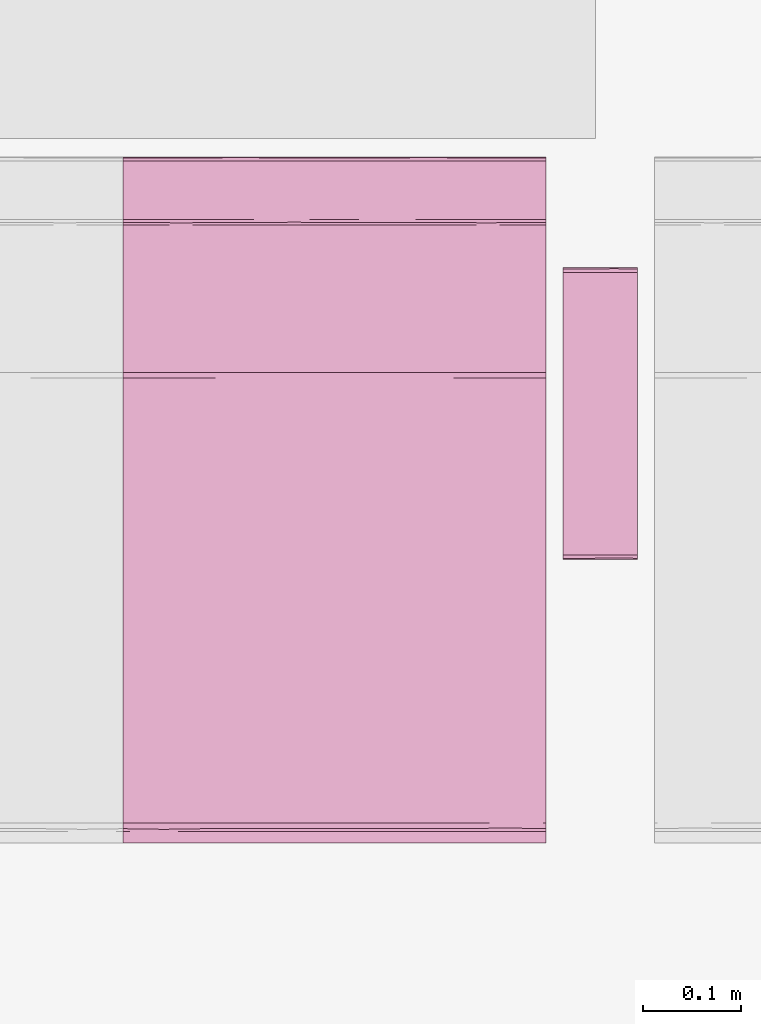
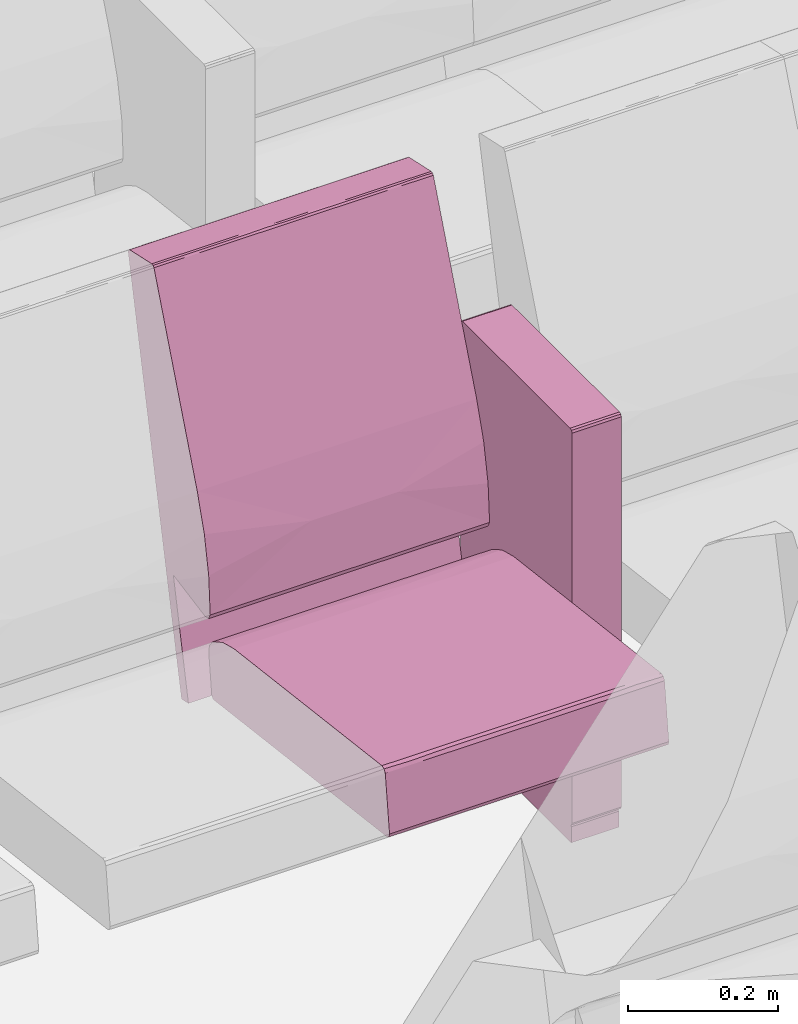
# One storey, part 129 of 155: 1 furnishing.
"""IFC2X3 building model written with IfcOpenShell, lengths in metres."""

from ifc_helpers import new_model, entity, si_unit, converted_unit, derived_unit, direction, frame, origin, place, context, subcontext, project, spatial, faceted_brep, source, transform, mapped, material, material_list, type_object, type_shapes, element, save


model = new_model("IFC2X3")

# Units and contexts
model_context = context("Model", 3, precision=1e-05, world=origin(), true_north=direction((6.12303176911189e-17, 1.0)))
body_context = subcontext(model_context, "Body", "Model", "MODEL_VIEW")
ifc_project = project(units=[si_unit("LENGTHUNIT", "METRE"), si_unit("AREAUNIT", "SQUARE_METRE"), si_unit("VOLUMEUNIT", "CUBIC_METRE"), converted_unit("PLANEANGLEUNIT", "DEGREE", entity("IfcRatioMeasure", 0.0174532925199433), si_unit("PLANEANGLEUNIT", "RADIAN"), dimensions=[0, 0, 0, 0, 0, 0, 0]), si_unit("MASSUNIT", "GRAM", prefix="KILO"), derived_unit("MASSDENSITYUNIT", [(si_unit("MASSUNIT", "GRAM", prefix="KILO"), 1), (si_unit("LENGTHUNIT", "METRE"), -3)]), si_unit("TIMEUNIT", "SECOND"), si_unit("FREQUENCYUNIT", "HERTZ"), si_unit("THERMODYNAMICTEMPERATUREUNIT", "DEGREE_CELSIUS"), derived_unit("THERMALTRANSMITTANCEUNIT", [(si_unit("MASSUNIT", "GRAM", prefix="KILO"), 1), (si_unit("THERMODYNAMICTEMPERATUREUNIT", "KELVIN"), -1), (si_unit("TIMEUNIT", "SECOND"), -3)]), derived_unit("VOLUMETRICFLOWRATEUNIT", [(si_unit("LENGTHUNIT", "METRE"), 3), (si_unit("TIMEUNIT", "SECOND"), -1)]), si_unit("ELECTRICCURRENTUNIT", "AMPERE"), si_unit("ELECTRICVOLTAGEUNIT", "VOLT"), si_unit("POWERUNIT", "WATT"), si_unit("FORCEUNIT", "NEWTON", prefix="KILO"), si_unit("ILLUMINANCEUNIT", "LUX"), si_unit("LUMINOUSFLUXUNIT", "LUMEN"), si_unit("LUMINOUSINTENSITYUNIT", "CANDELA"), derived_unit("USERDEFINED", [(si_unit("MASSUNIT", "GRAM", prefix="KILO"), -1), (si_unit("LENGTHUNIT", "METRE"), -2), (si_unit("TIMEUNIT", "SECOND"), 3), (si_unit("LUMINOUSFLUXUNIT", "LUMEN"), 1)]), derived_unit("LINEARVELOCITYUNIT", [(si_unit("LENGTHUNIT", "METRE"), 1), (si_unit("TIMEUNIT", "SECOND"), -1)]), si_unit("PRESSUREUNIT", "PASCAL"), derived_unit("USERDEFINED", [(si_unit("LENGTHUNIT", "METRE"), -2), (si_unit("MASSUNIT", "GRAM", prefix="KILO"), 1), (si_unit("TIMEUNIT", "SECOND"), -2)])], contexts=[model_context])

# Site, building, storey, space
site_placement = place(None, frame((26.9889013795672, -17.5624287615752, 0.0)))
site = spatial("IfcSite", under=ifc_project, at=site_placement, Name="Default", CompositionType="ELEMENT")
building_placement = place(site_placement, origin())
building = spatial("IfcBuilding", under=site, at=building_placement, Name="C. C. L. Monsenhor Antônio Sampaio", CompositionType="ELEMENT")
storey_placement = place(building_placement, frame((0.0, 0.0, 1.19999999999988)))
storey = spatial("IfcBuildingStorey", under=building, at=storey_placement, Name="Nível 1.2", CompositionType="ELEMENT", Elevation=1.19999999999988)
space_placement = place(storey_placement, origin())
space = spatial("IfcSpace", under=storey, at=space_placement, Name="94", CompositionType="ELEMENT", InteriorOrExteriorSpace="INTERNAL")

# Furnishing
ifc_material_1 = material(Name="V9 - V9 - Ecopelle_672_658")
ifc_material_2 = material(Name="V9 - V9 - RAL_9006_Grigio")
ifc_material_list_1 = material_list([ifc_material_1, ifc_material_2])
ifc_material_list_2 = material_list([ifc_material_1, ifc_material_2])
furniture_type = type_object("IfcFurnitureType", Name="Cadeira auditório", material=ifc_material_list_2)
shared_shape = source(origin(), body_context, "Body", "Brep", [
    faceted_brep([(0.405536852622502, -0.1075, 0.339809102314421), (0.410560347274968, -0.131924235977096, 0.34246450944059), (0.405536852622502, -0.156348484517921, 0.339809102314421), (0.41079981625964, -0.0179166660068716, 0.342749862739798), (0.410597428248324, -0.084060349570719, 0.342506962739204), (0.405536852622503, -0.0537499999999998, 0.339809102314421), (0.410248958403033, -0.173608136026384, 0.342130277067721), (0.405536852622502, -0.215, 0.339809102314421), (0.412515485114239, -0.143333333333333, 0.348529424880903), (0.412515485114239, -0.185674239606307, 0.348529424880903), (0.405536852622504, 0.1075, 0.33980910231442), (0.405536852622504, 0.156348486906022, 0.33980910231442), (0.410560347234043, 0.131924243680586, 0.342464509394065), (0.405536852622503, 0.0, 0.33980910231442), (0.411170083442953, 0.0341365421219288, 0.343251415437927), (0.41251548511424, 0.0, 0.348529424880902), (0.412515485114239, -0.0358333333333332, 0.348529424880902), (0.412515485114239, -0.0716666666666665, 0.348529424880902), (0.41251548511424, 0.143333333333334, 0.348529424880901), (0.41059742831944, 0.0840603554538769, 0.342506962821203), (0.405536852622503, 0.0537500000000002, 0.33980910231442), (0.410248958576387, 0.173608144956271, 0.342130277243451), (0.410799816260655, 0.215, 0.342749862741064), (0.412515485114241, 0.185674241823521, 0.348529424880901), (0.412515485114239, -0.215, 0.348529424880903), (0.410799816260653, -0.215, 0.342749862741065), (0.412515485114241, 0.215, 0.348529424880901), (0.41251548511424, 0.0716666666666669, 0.348529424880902), (0.405536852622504, 0.215, 0.33980910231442), (-0.0557900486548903, -0.215, 0.28268145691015), (-0.0557900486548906, -0.1881249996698, 0.282681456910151), (-0.0557900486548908, -0.161250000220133, 0.282681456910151), (-0.055790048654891, -0.134374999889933, 0.282681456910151), (-0.0557900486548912, -0.107499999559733, 0.282681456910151), (-0.0557900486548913, -0.0806250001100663, 0.282681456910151), (-0.0557900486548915, -0.0537499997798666, 0.282681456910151), (-0.0557900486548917, -0.0268749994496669, 0.282681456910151), (-0.0557900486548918, 0.0, 0.28268145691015), (-0.0557900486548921, 0.0268750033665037, 0.282681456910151), (-0.0557900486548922, 0.0537499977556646, 0.282681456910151), (-0.0557900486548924, 0.0806249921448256, 0.282681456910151), (-0.0557900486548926, 0.107499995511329, 0.282681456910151), (-0.0557900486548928, 0.138065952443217, 0.282681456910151), (-0.055790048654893, 0.168631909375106, 0.282681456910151), (-0.0557900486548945, 0.215, 0.28268145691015), (-0.0594787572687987, -0.0179017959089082, 0.283700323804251), (-0.0613666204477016, 0.0, 0.287029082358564), (-0.0594787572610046, 0.0152829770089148, 0.283700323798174), (-0.0594787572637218, -0.215, 0.283700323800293), (-0.0613666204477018, -0.215, 0.287029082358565), (-0.0613666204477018, -0.191815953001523, 0.287029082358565), (-0.0613666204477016, -0.030565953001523, 0.287029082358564), (-0.0593340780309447, -0.0671874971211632, 0.283591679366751), (-0.0593337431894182, 0.184174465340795, 0.283591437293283), (-0.0594787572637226, 0.215, 0.283700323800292), (-0.0593023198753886, 0.0940625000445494, 0.283568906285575), (-0.0613666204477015, 0.0611319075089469, 0.287029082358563), (-0.0613666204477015, 0.0916978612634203, 0.287029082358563), (-0.0613666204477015, 0.122263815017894, 0.287029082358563), (-0.0597338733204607, -0.147039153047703, 0.283913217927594), (-0.0613666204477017, -0.122263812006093, 0.287029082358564), (-0.059382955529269, -0.118123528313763, 0.28362747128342), (-0.0592501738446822, -0.180223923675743, 0.283532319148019), (-0.0613666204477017, -0.168631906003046, 0.287029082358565), (-0.0588783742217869, -0.0926899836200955, 0.283298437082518), (-0.0613666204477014, 0.168631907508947, 0.287029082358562), (-0.0613666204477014, 0.215, 0.287029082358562), (-0.0592576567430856, 0.123736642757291, 0.283537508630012), (-0.0594787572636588, 0.153348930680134, 0.283700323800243), (-0.0613666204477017, -0.0916978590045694, 0.287029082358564), (-0.0613666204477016, 0.0305659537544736, 0.287029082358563), (-0.059645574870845, 0.045848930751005, 0.283836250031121), (-0.0613666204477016, -0.0611319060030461, 0.287029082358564), (-0.0693403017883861, 0.143333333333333, 0.351419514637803), (-0.069340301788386, 0.215, 0.351419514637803), (-0.0693403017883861, -0.215, 0.351419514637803), (-0.0693403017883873, -0.143333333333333, 0.351419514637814), (-0.069340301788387, -0.0716666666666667, 0.351419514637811), (-0.0693403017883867, 0.0, 0.351419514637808), (-0.0693403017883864, 0.0716666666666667, 0.351419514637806), (-0.0653387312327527, -0.0126787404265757, 0.368680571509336), (-0.0645543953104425, -0.112272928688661, 0.369803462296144), (-0.0597085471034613, 0.0, 0.37476954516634), (-0.0655136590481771, 0.104400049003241, 0.368411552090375), (-0.0681665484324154, 0.0888707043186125, 0.36292533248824), (-0.0694879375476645, -0.0590582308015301, 0.356377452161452), (-0.0695056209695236, 0.125492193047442, 0.356093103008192), (-0.0597085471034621, 0.110316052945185, 0.374769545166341), (-0.0676206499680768, -0.215, 0.364371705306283), (-0.0672851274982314, -0.108066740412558, 0.365148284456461), (-0.0690003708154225, -0.132942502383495, 0.359900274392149), (-0.068624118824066, -0.215, 0.356813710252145), (-0.0686241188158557, 0.214999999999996, 0.356813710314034), (-0.0694502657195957, 0.0358333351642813, 0.356863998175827), (-0.0686999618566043, -0.035833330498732, 0.36116674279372), (-0.067620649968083, 0.214999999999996, 0.364371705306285), (-0.063664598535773, 0.214999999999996, 0.369570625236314), (-0.0597085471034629, 0.214999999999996, 0.374769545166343), (-0.0597085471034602, -0.110316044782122, 0.374769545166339), (-0.0636645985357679, -0.215, 0.36957062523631), (-0.0597085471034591, -0.215, 0.374769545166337), (-0.0018793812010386, -0.215, 0.398686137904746), (-0.0324117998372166, -0.0436847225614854, 0.39063968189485), (-0.0324117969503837, -0.215, 0.390639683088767), (-0.041847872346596, 0.0856576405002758, 0.386239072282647), (-0.00187938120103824, 0.102488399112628, 0.398686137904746), (-0.00187938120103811, 0.215, 0.398686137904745), (-0.0324117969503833, 0.215, 0.390639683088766), (-0.0219042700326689, 0.0570631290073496, 0.394412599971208), (-0.00187938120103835, 0.0, 0.398686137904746), (0.392202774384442, -0.215, 0.447486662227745), (0.392202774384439, -0.156349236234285, 0.447486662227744), (0.392202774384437, -0.107499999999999, 0.447486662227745), (0.392202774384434, -0.0537499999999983, 0.447486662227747), (0.392202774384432, 0.0, 0.447486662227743), (0.392202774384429, 0.0537500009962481, 0.44748666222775), (0.392202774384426, 0.107500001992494, 0.447486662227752), (0.392202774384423, 0.156349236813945, 0.447486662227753), (0.392202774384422, 0.215, 0.447486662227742), (0.397860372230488, 0.0827732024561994, 0.446039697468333), (0.401125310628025, 0.0976984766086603, 0.440530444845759), (0.398104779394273, 0.131924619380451, 0.445856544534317), (0.397373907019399, 0.173462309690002, 0.446363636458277), (0.401125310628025, 0.156349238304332, 0.440530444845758), (0.401125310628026, 0.215000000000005, 0.440530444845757), (0.398104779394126, 0.215000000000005, 0.445856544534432), (0.397860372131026, -0.0827731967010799, 0.446039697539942), (0.398104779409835, -0.131924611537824, 0.445856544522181), (0.398104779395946, -0.0268749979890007, 0.445856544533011), (0.398104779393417, 0.0237489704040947, 0.445856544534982), (0.401125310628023, -0.0488492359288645, 0.440530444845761), (0.401125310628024, 0.0488492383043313, 0.44053044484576), (0.398774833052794, -0.173462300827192, 0.445271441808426), (0.401125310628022, -0.0976984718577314, 0.440530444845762), (0.39810477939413, -0.215, 0.445856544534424), (0.401125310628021, -0.215, 0.440530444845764), (0.401125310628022, -0.156349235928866, 0.440530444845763), (0.401125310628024, 0.0, 0.44053044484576)], [[[0, 1, 2]], [[3, 4, 5]], [[2, 6, 7]], [[8, 9, 6]], [[10, 11, 12]], [[13, 3, 5]], [[3, 14, 15]], [[1, 4, 8]], [[6, 1, 8]], [[4, 3, 16]], [[16, 17, 8, 4]], [[12, 18, 19]], [[4, 1, 0]], [[20, 14, 13]], [[21, 22, 23]], [[15, 16, 3]], [[9, 24, 25]], [[26, 23, 22]], [[7, 6, 25]], [[12, 11, 21]], [[19, 14, 20]], [[4, 0, 5]], [[14, 27, 15]], [[13, 14, 3]], [[19, 18, 27]], [[19, 10, 12]], [[18, 21, 23]], [[10, 19, 20]], [[19, 27, 14]], [[2, 1, 6]], [[21, 11, 28]], [[25, 6, 9]], [[18, 12, 21]], [[22, 21, 28]], [[28, 11, 10, 20, 13, 5, 0, 2, 7, 29, 30, 31, 32, 33, 34, 35, 36, 37, 38, 39, 40, 41, 42, 43, 44]], [[45, 46, 47]], [[48, 49, 50]], [[51, 45, 52]], [[53, 54, 44]], [[55, 56, 57, 58]], [[59, 60, 61]], [[62, 63, 59]], [[34, 64, 52]], [[53, 65, 66]], [[41, 67, 42]], [[37, 36, 35, 45, 47, 38]], [[43, 42, 68]], [[29, 48, 30]], [[59, 31, 62]], [[62, 48, 50]], [[61, 69, 64]], [[65, 53, 68]], [[50, 63, 62]], [[62, 30, 48]], [[55, 58, 67]], [[32, 31, 59]], [[46, 70, 47]], [[65, 68, 58]], [[55, 40, 71]], [[70, 56, 71]], [[61, 33, 32]], [[59, 63, 60]], [[39, 38, 71, 40]], [[47, 71, 38]], [[51, 46, 45]], [[70, 71, 47]], [[71, 56, 55]], [[40, 55, 41]], [[67, 68, 42]], [[43, 68, 53]], [[43, 53, 44]], [[66, 54, 53]], [[68, 67, 58]], [[55, 67, 41]], [[72, 51, 52, 69]], [[62, 31, 30]], [[59, 61, 32]], [[35, 52, 45]], [[64, 34, 33]], [[34, 52, 35]], [[61, 60, 69]], [[52, 64, 69]], [[61, 64, 33]], [[73, 74, 66, 65, 58, 57, 56, 70, 46, 51, 72, 69, 60, 63, 50, 49, 75, 76, 77, 78, 79]], [[80, 81, 82]], [[83, 84, 80]], [[85, 78, 77, 76]], [[73, 79, 86]], [[80, 82, 83]], [[87, 83, 82]], [[88, 89, 90]], [[76, 75, 91]], [[92, 74, 73]], [[91, 90, 85]], [[80, 89, 81]], [[84, 93, 94]], [[84, 86, 93]], [[93, 78, 85]], [[73, 86, 92]], [[94, 93, 85]], [[95, 92, 84]], [[78, 93, 79]], [[80, 84, 94]], [[83, 96, 95]], [[94, 85, 90]], [[87, 97, 96]], [[98, 99, 100]], [[91, 85, 76]], [[94, 90, 89]], [[90, 91, 88]], [[89, 80, 94]], [[89, 99, 81]], [[89, 88, 99]], [[82, 81, 98]], [[81, 99, 98]], [[92, 86, 84]], [[93, 86, 79]], [[84, 83, 95]], [[96, 83, 87]], [[101, 102, 103]], [[104, 97, 87, 82]], [[105, 106, 107]], [[107, 108, 105]], [[109, 102, 101]], [[82, 102, 104]], [[102, 108, 104]], [[103, 102, 100]], [[97, 104, 107]], [[104, 108, 107]], [[102, 82, 98, 100]], [[105, 108, 109]], [[108, 102, 109]], [[109, 101, 110, 111, 112, 113, 114, 115, 116, 117, 118, 106, 105]], [[119, 120, 121]], [[122, 123, 124]], [[122, 125, 118]], [[126, 113, 112]], [[117, 121, 122]], [[121, 117, 116]], [[112, 111, 127]], [[113, 128, 129, 115, 114]], [[126, 130, 128]], [[129, 131, 119]], [[111, 132, 127]], [[132, 111, 110]], [[133, 126, 127]], [[123, 122, 121]], [[132, 134, 135]], [[127, 132, 136]], [[123, 121, 120]], [[127, 136, 133]], [[129, 128, 130, 137, 131]], [[112, 127, 126]], [[126, 133, 130]], [[119, 121, 116]], [[113, 126, 128]], [[119, 115, 129]], [[119, 116, 115]], [[120, 119, 131]], [[117, 122, 118]], [[124, 125, 122]], [[136, 132, 135]], [[110, 134, 132]], [[137, 130, 133, 136, 135, 24, 9, 8, 17, 16, 15, 27, 18, 23, 26, 124, 123, 120, 131]], [[44, 54, 66, 74, 92, 95, 96, 97, 107, 106, 118, 125, 124, 26, 22, 28]], [[75, 49, 48, 29, 7, 25, 24, 135, 134, 110, 101, 103, 100, 99, 88, 91]]]),
    faceted_brep([(0.119812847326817, 0.27, 0.674900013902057), (0.12334838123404, 0.259944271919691, 0.6734355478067), (0.123144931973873, 0.283972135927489, 0.673627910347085), (0.124812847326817, 0.27, 0.669900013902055), (0.119812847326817, 0.232, 0.674900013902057), (0.12334838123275, 0.232, 0.673435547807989), (0.124812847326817, 0.308, 0.669900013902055), (0.119812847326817, 0.308, 0.674900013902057), (0.124812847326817, 0.249888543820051, 0.669900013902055), (0.124812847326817, 0.232, 0.669900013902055), (0.12334838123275, 0.308, 0.673435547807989), (0.124812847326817, 0.232, 0.0349999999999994), (0.124812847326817, 0.27, 0.035), (0.124812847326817, 0.308, 0.035), (0.12334838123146, 0.25994427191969, 0.0314644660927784), (0.123540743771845, 0.283972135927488, 0.0316679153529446), (0.119812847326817, 0.27, 0.0300000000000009), (0.12334838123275, 0.232, 0.0314644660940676), (0.119812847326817, 0.308, 0.0300000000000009), (0.119812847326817, 0.249888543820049, 0.030000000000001), (0.119812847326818, 0.232, 0.030000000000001), (0.123348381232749, 0.308, 0.0314644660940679), (-0.167179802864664, 0.27, 0.0300000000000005), (-0.167179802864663, 0.308, 0.0300000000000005), (-0.167179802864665, 0.232, 0.0300000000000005), (-0.170715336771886, 0.25994427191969, 0.0314644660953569), (-0.17051188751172, 0.283972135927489, 0.0312721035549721), (-0.172179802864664, 0.27, 0.0350000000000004), (-0.170715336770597, 0.232, 0.0314644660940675), (-0.172179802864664, 0.308, 0.0350000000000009), (-0.172179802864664, 0.24988854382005, 0.0350000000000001), (-0.172179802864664, 0.232, 0.0349999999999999), (-0.170715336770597, 0.308, 0.0314644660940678), (-0.172179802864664, 0.308, 0.669900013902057), (-0.172179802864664, 0.232, 0.669900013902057), (-0.172179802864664, 0.27, 0.669900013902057), (-0.170715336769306, 0.259944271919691, 0.673435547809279), (-0.170907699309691, 0.283972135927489, 0.673232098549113), (-0.167179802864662, 0.27, 0.674900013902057), (-0.170715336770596, 0.232, 0.67343554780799), (-0.167179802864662, 0.308, 0.674900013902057), (-0.167179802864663, 0.249888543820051, 0.674900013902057), (-0.167179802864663, 0.232, 0.674900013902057), (-0.170715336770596, 0.308, 0.67343554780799)], [[[0, 1, 2]], [[3, 2, 1]], [[0, 4, 5, 1]], [[2, 3, 6]], [[0, 2, 7]], [[8, 3, 1, 5, 9]], [[7, 2, 10]], [[6, 10, 2]], [[9, 11, 12, 13, 6, 3, 8]], [[12, 14, 15]], [[16, 15, 14]], [[12, 11, 17, 14]], [[15, 16, 18]], [[12, 15, 13]], [[19, 16, 14, 17, 20]], [[13, 15, 21]], [[18, 21, 15]], [[22, 23, 18, 16, 19, 20, 24]], [[22, 25, 26]], [[27, 26, 25]], [[22, 24, 28, 25]], [[26, 27, 29]], [[22, 26, 23]], [[30, 27, 25, 28, 31]], [[23, 26, 32]], [[29, 32, 26]], [[33, 29, 27, 30, 31, 34, 35]], [[35, 36, 37]], [[38, 37, 36]], [[35, 34, 39, 36]], [[37, 38, 40]], [[35, 37, 33]], [[41, 38, 36, 39, 42]], [[33, 37, 43]], [[40, 43, 37]], [[0, 7, 40, 38, 41, 42, 4]], [[42, 39, 34, 31, 28, 24, 20, 17, 11, 9, 5, 4]], [[23, 32, 29, 33, 43, 40, 7, 10, 6, 13, 21, 18]]]),
    faceted_brep([(-0.0655618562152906, -0.215, 0.415143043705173), (-0.0744051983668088, -0.0524423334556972, 0.506888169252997), (-0.0695672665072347, -0.215, 0.476508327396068), (-0.0655618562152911, 0.0, 0.415143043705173), (-0.0744051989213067, 0.0780075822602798, 0.506888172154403), (-0.0655618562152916, 0.1075, 0.415143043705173), (-0.0655618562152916, 0.215, 0.415143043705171), (-0.0655618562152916, -0.1075, 0.415143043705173), (-0.0695672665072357, 0.215, 0.476508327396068), (-0.0811110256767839, 0.215, 0.536911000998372), (-0.0811110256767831, -0.215, 0.536911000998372), (-0.100016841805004, 0.0, 0.595428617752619), (-0.100016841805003, -0.215, 0.595428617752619), (-0.100016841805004, 0.215, 0.595428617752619), (-0.0792851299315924, -0.0716666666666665, 0.404772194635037), (-0.0792851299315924, 0.0, 0.404772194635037), (-0.0698317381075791, -0.0358333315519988, 0.406528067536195), (-0.0698317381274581, 0.215, 0.406528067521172), (-0.0792851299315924, 0.143333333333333, 0.404772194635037), (-0.0792851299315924, 0.215, 0.404772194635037), (-0.0698317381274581, -0.215, 0.406528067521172), (-0.0792851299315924, -0.215, 0.404772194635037), (-0.0792851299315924, -0.143333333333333, 0.404772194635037), (-0.0694171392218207, -0.140338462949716, 0.406857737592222), (-0.0708115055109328, 0.0356393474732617, 0.405868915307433), (-0.0703502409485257, 0.107500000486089, 0.406159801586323), (-0.0792851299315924, 0.0716666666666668, 0.404772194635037), (-0.163837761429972, 0.215, 0.420611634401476), (-0.163837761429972, -0.215, 0.420611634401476), (-0.123612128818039, -0.215, 0.235917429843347), (-0.123612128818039, 0.215, 0.235917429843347), (-0.142059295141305, -0.215, 0.231899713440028), (-0.142059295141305, 0.215, 0.231899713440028), (-0.235388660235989, -0.215, 0.652619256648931), (-0.235388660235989, 0.215, 0.652619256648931), (-0.28428001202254, 0.0, 0.873004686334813), (-0.284280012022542, 0.0268749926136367, 0.873004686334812), (-0.284280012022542, 0.0537499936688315, 0.873004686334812), (-0.284280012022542, 0.0806249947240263, 0.873004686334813), (-0.284280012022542, 0.107499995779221, 0.873004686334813), (-0.284280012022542, 0.134374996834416, 0.873004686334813), (-0.284280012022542, 0.161249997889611, 0.873004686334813), (-0.284280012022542, 0.191295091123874, 0.873004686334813), (-0.28428001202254, 0.215, 0.873004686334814), (-0.284280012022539, -0.215, 0.873004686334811), (-0.28428001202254, -0.191295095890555, 0.873004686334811), (-0.284280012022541, -0.161249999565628, 0.873004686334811), (-0.284280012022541, -0.134374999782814, 0.873004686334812), (-0.284280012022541, -0.1075, 0.873004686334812), (-0.284280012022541, -0.0806250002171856, 0.873004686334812), (-0.284280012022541, -0.0537500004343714, 0.873004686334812), (-0.284280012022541, -0.0268749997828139, 0.873004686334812), (-0.283504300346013, -0.0569644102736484, 0.877068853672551), (-0.283746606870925, -0.0872244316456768, 0.876674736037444), (-0.283641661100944, 0.12093750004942, 0.876855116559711), (-0.283567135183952, 0.15546176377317, 0.876973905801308), (-0.28330409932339, -0.185293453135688, 0.877344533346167), (-0.283567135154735, -0.155461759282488, 0.876973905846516), (-0.280514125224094, 0.0, 0.879190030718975), (-0.280514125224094, 0.0358333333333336, 0.879190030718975), (-0.283641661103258, 0.0136463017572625, 0.876855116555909), (-0.283641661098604, -0.0179166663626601, 0.876855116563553), (-0.280514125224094, -0.0358333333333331, 0.879190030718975), (-0.280514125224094, 0.1075, 0.879190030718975), (-0.280514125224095, 0.143333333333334, 0.879190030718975), (-0.283746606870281, 0.0872244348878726, 0.876674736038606), (-0.280514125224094, 0.071666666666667, 0.879190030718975), (-0.280514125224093, -0.1075, 0.879190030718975), (-0.280514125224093, -0.0716666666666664, 0.879190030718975), (-0.280514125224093, -0.143333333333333, 0.879190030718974), (-0.283641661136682, -0.120937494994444, 0.876855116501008), (-0.283641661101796, -0.215, 0.876855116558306), (-0.283641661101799, 0.215, 0.876855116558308), (-0.280514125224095, 0.167590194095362, 0.879190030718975), (-0.283304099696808, 0.18529345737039, 0.877344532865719), (-0.280514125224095, 0.215, 0.879190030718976), (-0.280514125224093, -0.167590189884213, 0.879190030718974), (-0.280514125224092, -0.215, 0.879190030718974), (-0.283504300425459, 0.0569644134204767, 0.8770688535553), (-0.221112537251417, -0.215, 0.892176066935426), (-0.221112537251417, -0.19181594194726, 0.892176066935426), (-0.221112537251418, -0.16124999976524, 0.892176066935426), (-0.221112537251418, -0.13437499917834, 0.892176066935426), (-0.221112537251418, -0.10749999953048, 0.892176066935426), (-0.221112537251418, -0.08062499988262, 0.892176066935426), (-0.221112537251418, -0.0537500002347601, 0.892176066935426), (-0.221112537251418, -0.0268750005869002, 0.892176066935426), (-0.221112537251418, 0.0, 0.892176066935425), (-0.221112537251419, 0.0268750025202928, 0.892176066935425), (-0.221112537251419, 0.053749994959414, 0.892176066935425), (-0.221112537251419, 0.0806249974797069, 0.892176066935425), (-0.221112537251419, 0.1075, 0.892176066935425), (-0.221112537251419, 0.134375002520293, 0.892176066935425), (-0.221112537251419, 0.161250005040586, 0.892176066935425), (-0.221112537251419, 0.191815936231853, 0.892176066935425), (-0.221112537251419, 0.215, 0.892176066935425), (-0.217722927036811, -0.0162353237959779, 0.891719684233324), (-0.215419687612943, -0.0358333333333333, 0.889191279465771), (-0.215419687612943, 0.0, 0.889191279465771), (-0.217722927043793, 0.0134375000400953, 0.891719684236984), (-0.217722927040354, 0.120937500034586, 0.89171968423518), (-0.217722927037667, 0.0912646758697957, 0.891719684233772), (-0.215419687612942, 0.0716666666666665, 0.88919127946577), (-0.215419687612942, 0.1075, 0.88919127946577), (-0.215419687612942, 0.143333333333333, 0.88919127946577), (-0.217722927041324, 0.215, 0.891719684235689), (-0.217722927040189, 0.182482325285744, 0.891719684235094), (-0.215419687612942, 0.168631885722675, 0.889191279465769), (-0.215419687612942, 0.191815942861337, 0.889191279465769), (-0.215419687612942, 0.215, 0.889191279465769), (-0.217722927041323, -0.215, 0.89171968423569), (-0.215419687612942, -0.215, 0.889191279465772), (-0.215419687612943, -0.191815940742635, 0.889191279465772), (-0.217722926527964, -0.190103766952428, 0.891719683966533), (-0.2179983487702, 0.039082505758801, 0.891853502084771), (-0.217816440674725, 0.0647800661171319, 0.891767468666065), (-0.217558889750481, 0.155982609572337, 0.891629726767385), (-0.217722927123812, -0.120937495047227, 0.891719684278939), (-0.217558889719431, -0.15598260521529, 0.891629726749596), (-0.215419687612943, -0.143333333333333, 0.889191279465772), (-0.215419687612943, -0.16863188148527, 0.889191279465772), (-0.215419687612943, -0.0716666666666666, 0.889191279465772), (-0.217816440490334, -0.0647800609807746, 0.891767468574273), (-0.217722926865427, -0.0912646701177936, 0.891719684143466), (-0.215419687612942, 0.0358333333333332, 0.889191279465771), (-0.215419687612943, -0.1075, 0.889191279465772), (-0.218257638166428, -0.0404491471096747, 0.891961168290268)], [[[0, 1, 2]], [[3, 4, 1]], [[4, 3, 5, 6]], [[1, 0, 7, 3]], [[8, 4, 6]], [[9, 4, 8]], [[1, 10, 2]], [[1, 11, 12]], [[9, 13, 4]], [[13, 11, 4]], [[10, 1, 12]], [[11, 1, 4]], [[14, 15, 16]], [[17, 18, 19]], [[20, 21, 22]], [[20, 23, 0]], [[3, 7, 16]], [[15, 24, 16]], [[24, 25, 5]], [[22, 23, 20]], [[7, 23, 16]], [[6, 5, 17]], [[16, 24, 3]], [[16, 23, 14]], [[23, 22, 14]], [[18, 25, 26]], [[18, 17, 25]], [[26, 24, 15]], [[7, 0, 23]], [[5, 25, 17]], [[25, 24, 26]], [[3, 24, 5]], [[27, 19, 18, 26, 15, 14, 22, 21, 28]], [[27, 28, 29, 30]], [[31, 32, 30, 29]], [[33, 34, 32, 31]], [[35, 36, 37, 38, 39, 40, 41, 42, 43, 34, 33, 44, 45, 46, 47, 48, 49, 50, 51]], [[52, 49, 53]], [[54, 55, 40]], [[46, 56, 57]], [[58, 59, 60, 61, 62]], [[54, 63, 64]], [[65, 66, 63]], [[67, 68, 53]], [[57, 69, 70]], [[45, 56, 46]], [[39, 54, 40]], [[45, 44, 71]], [[72, 43, 42]], [[35, 51, 61, 60, 36]], [[55, 73, 74]], [[39, 65, 54]], [[74, 73, 75]], [[67, 53, 70]], [[74, 42, 41]], [[64, 73, 55]], [[56, 76, 57]], [[74, 72, 42]], [[76, 56, 77]], [[56, 71, 77]], [[57, 76, 69]], [[48, 70, 53]], [[70, 48, 47]], [[60, 78, 36]], [[63, 54, 65]], [[71, 56, 45]], [[41, 55, 74]], [[72, 74, 75]], [[57, 70, 47]], [[47, 46, 57]], [[69, 67, 70]], [[50, 49, 52, 51]], [[52, 62, 61]], [[61, 51, 52]], [[55, 41, 40]], [[55, 54, 64]], [[66, 65, 78]], [[65, 38, 78]], [[52, 53, 68]], [[37, 36, 78, 38]], [[78, 59, 66]], [[59, 78, 60]], [[49, 48, 53]], [[65, 39, 38]], [[52, 68, 62]], [[79, 80, 81, 82, 83, 84, 85, 86, 87, 88, 89, 90, 91, 92, 93, 94, 95, 75, 73, 64, 63, 66, 59, 58, 62, 68, 67, 69, 76, 77]], [[96, 97, 98, 99]], [[100, 101, 102, 103, 104]], [[105, 106, 107, 108, 109]], [[110, 111, 112]], [[80, 110, 113]], [[89, 114, 115]], [[92, 116, 93]], [[94, 93, 106, 105, 95]], [[80, 79, 110]], [[92, 91, 90, 101, 100]], [[99, 88, 87, 86, 96]], [[104, 107, 116]], [[117, 83, 82]], [[117, 118, 119]], [[112, 120, 113]], [[118, 120, 119]], [[118, 81, 113]], [[116, 107, 106]], [[101, 90, 115]], [[121, 122, 123]], [[104, 116, 100]], [[110, 112, 113]], [[114, 99, 124]], [[92, 100, 116]], [[117, 125, 123]], [[82, 81, 118]], [[118, 117, 82]], [[83, 117, 123]], [[125, 117, 119]], [[102, 101, 115]], [[84, 83, 123]], [[123, 125, 121]], [[85, 84, 122]], [[89, 115, 90]], [[96, 86, 126]], [[124, 102, 115]], [[88, 99, 114]], [[99, 98, 124]], [[122, 121, 97]], [[126, 122, 97]], [[88, 114, 89]], [[115, 114, 124]], [[123, 122, 84]], [[126, 85, 122]], [[85, 126, 86]], [[96, 126, 97]], [[116, 106, 93]], [[80, 113, 81]], [[118, 113, 120]], [[12, 11, 13, 109, 108, 107, 104, 103, 102, 124, 98, 97, 121, 125, 119, 120, 112, 111]], [[30, 32, 34, 43, 72, 75, 95, 105, 109, 13, 9, 8, 6, 17, 19, 27]], [[77, 71, 44, 33, 31, 29, 28, 21, 20, 0, 2, 10, 12, 111, 110, 79]]]),
    faceted_brep([(0.120312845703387, 0.2335, 0.0), (0.120312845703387, 0.3065, 0.0), (0.120312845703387, 0.3065, 0.0260000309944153), (0.120312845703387, 0.27, 0.0260000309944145), (0.120312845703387, 0.249500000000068, 0.0260000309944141), (0.120312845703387, 0.2335, 0.0260000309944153), (-0.167687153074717, 0.2335, 0.0), (-0.167687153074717, 0.3065, 0.0), (-0.167687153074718, 0.3065, 0.0260000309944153), (-0.167687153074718, 0.2335, 0.0260000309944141), (-0.167687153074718, 0.27, 0.0260000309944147), (-0.163702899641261, 0.233500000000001, 0.0300000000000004), (-0.166521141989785, 0.257382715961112, 0.0288228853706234), (-0.166521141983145, 0.233500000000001, 0.0288228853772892), (-0.166521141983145, 0.3065, 0.0288228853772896), (-0.16652114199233, 0.279986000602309, 0.0288228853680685), (-0.163702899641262, 0.3065, 0.0300000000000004), (-0.163702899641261, 0.27, 0.0300000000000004), (0.116297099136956, 0.2335, 0.0300000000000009), (0.116297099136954, 0.270000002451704, 0.0300000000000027), (0.116297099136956, 0.3065, 0.0300000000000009), (0.119033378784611, 0.283124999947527, 0.0289323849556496), (0.119135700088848, 0.259750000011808, 0.0288340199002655), (0.1191357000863, 0.2335, 0.0288340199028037), (0.119135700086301, 0.3065, 0.0288340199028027)], [[[0, 1, 2, 3, 4, 5]], [[6, 7, 1, 0]], [[8, 7, 6, 9, 10]], [[11, 12, 13]], [[14, 15, 16]], [[17, 16, 15, 12, 11]], [[13, 12, 10, 9]], [[8, 15, 14]], [[12, 15, 8, 10]], [[16, 17, 11, 18, 19, 20]], [[3, 2, 21]], [[22, 19, 18, 23]], [[22, 23, 5, 4, 3]], [[20, 21, 24]], [[22, 3, 21]], [[19, 21, 20]], [[2, 24, 21]], [[19, 22, 21]], [[20, 24, 2, 1, 7, 8, 14, 16]], [[18, 11, 13, 9, 6, 0, 5, 23]]]),
])
type_shapes(furniture_type, [shared_shape])
furnishing_placement = place(space_placement, frame((-7.63594929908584, -15.3086263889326, 0.0), z_axis=(0.0, 0.0, 1.0), x_axis=(0.0, -1.0, 0.0)))
element("IfcFurnishingElement", 1, at=furnishing_placement, inside=space, type_object=furniture_type, material=ifc_material_list_1, Name="cadeira auditório pcd:Cadeira auditório", ObjectType="Cadeira auditório", context=body_context, shape_type="MappedRepresentation", body=[
    mapped(shared_shape, transform((0.0, 0.0, 0.0), scale=1.0)),
])

save(model, "model.ifc")
